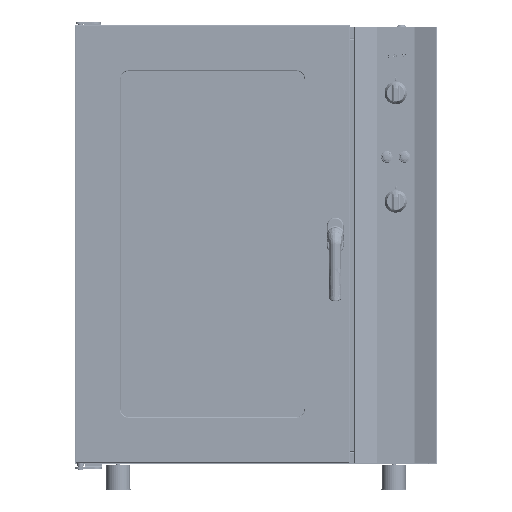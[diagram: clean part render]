
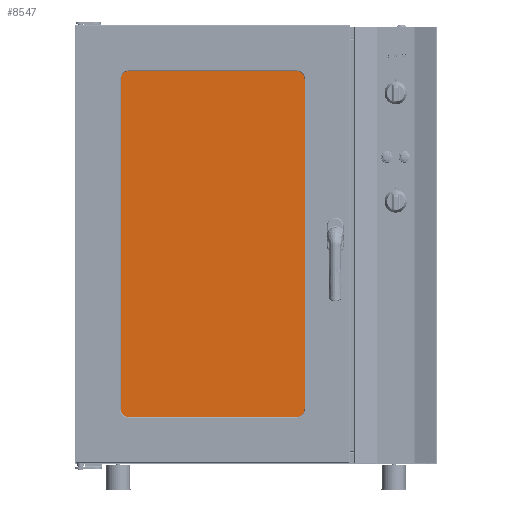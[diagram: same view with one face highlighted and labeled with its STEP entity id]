
A CAD part, front view. The second image highlights one B-rep face of the part: STEP entity #8547.
In plain terms, the highlighted planar face has unit normal (0, -1, 0).
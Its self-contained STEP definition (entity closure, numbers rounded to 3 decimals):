
#3906=FACE_OUTER_BOUND('',#17939,.T.);
#8547=ADVANCED_FACE('',(#3906),#13794,.F.);
#13794=PLANE('',#89497);
#17939=EDGE_LOOP('',(#24753,#24754,#24755,#24756,#24757,#24758,#24759,#24760));
#24753=ORIENTED_EDGE('',*,*,#57852,.T.);
#24754=ORIENTED_EDGE('',*,*,#57860,.F.);
#24755=ORIENTED_EDGE('',*,*,#57855,.T.);
#24756=ORIENTED_EDGE('',*,*,#57861,.F.);
#24757=ORIENTED_EDGE('',*,*,#57858,.F.);
#24758=ORIENTED_EDGE('',*,*,#57862,.F.);
#24759=ORIENTED_EDGE('',*,*,#57863,.F.);
#24760=ORIENTED_EDGE('',*,*,#57864,.F.);
#49881=VERTEX_POINT('',#124304);
#49882=VERTEX_POINT('',#124306);
#49883=VERTEX_POINT('',#124310);
#49884=VERTEX_POINT('',#124312);
#49885=VERTEX_POINT('',#124316);
#49886=VERTEX_POINT('',#124318);
#49887=VERTEX_POINT('',#124324);
#49888=VERTEX_POINT('',#124326);
#57852=EDGE_CURVE('',#49882,#49881,#77227,.T.);
#57855=EDGE_CURVE('',#49884,#49883,#77230,.T.);
#57858=EDGE_CURVE('',#49885,#49886,#77233,.T.);
#57860=EDGE_CURVE('',#49884,#49881,#71978,.T.);
#57861=EDGE_CURVE('',#49886,#49883,#71979,.T.);
#57862=EDGE_CURVE('',#49887,#49885,#71980,.T.);
#57863=EDGE_CURVE('',#49888,#49887,#77235,.T.);
#57864=EDGE_CURVE('',#49882,#49888,#71981,.T.);
#71978=CIRCLE('',#89493,20.);
#71979=CIRCLE('',#89494,20.);
#71980=CIRCLE('',#89495,20.);
#71981=CIRCLE('',#89496,20.);
#77227=LINE('',#124305,#83376);
#77230=LINE('',#124311,#83379);
#77233=LINE('',#124317,#83382);
#77235=LINE('',#124325,#83384);
#83376=VECTOR('',#99055,1.);
#83379=VECTOR('',#99060,1.);
#83382=VECTOR('',#99065,1.);
#83384=VECTOR('',#99075,1.);
#89493=AXIS2_PLACEMENT_3D('',#124321,#99069,#99070);
#89494=AXIS2_PLACEMENT_3D('',#124322,#99071,#99072);
#89495=AXIS2_PLACEMENT_3D('',#124323,#99073,#99074);
#89496=AXIS2_PLACEMENT_3D('',#124327,#99076,#99077);
#89497=AXIS2_PLACEMENT_3D('',#124328,#99078,#99079);
#99055=DIRECTION('',(-1.,0.,0.));
#99060=DIRECTION('',(0.,0.,-1.));
#99065=DIRECTION('',(-1.,0.,0.));
#99069=DIRECTION('',(0.,1.,0.));
#99070=DIRECTION('',(1.,0.,0.));
#99071=DIRECTION('',(0.,1.,0.));
#99072=DIRECTION('',(1.,0.,0.));
#99073=DIRECTION('',(0.,1.,0.));
#99074=DIRECTION('',(1.,0.,0.));
#99075=DIRECTION('',(0.,0.,-1.));
#99076=DIRECTION('',(0.,1.,0.));
#99077=DIRECTION('',(1.,0.,0.));
#99078=DIRECTION('',(0.,1.,0.));
#99079=DIRECTION('',(1.,0.,0.));
#124304=CARTESIAN_POINT('',(144.103,59.205,1064.3));
#124305=CARTESIAN_POINT('',(547.103,59.205,1064.3));
#124306=CARTESIAN_POINT('',(547.103,59.205,1064.3));
#124310=CARTESIAN_POINT('',(124.103,59.205,251.3));
#124311=CARTESIAN_POINT('',(124.103,59.205,1044.3));
#124312=CARTESIAN_POINT('',(124.103,59.205,1044.3));
#124316=CARTESIAN_POINT('',(547.103,59.205,231.3));
#124317=CARTESIAN_POINT('',(547.103,59.205,231.3));
#124318=CARTESIAN_POINT('',(144.103,59.205,231.3));
#124321=CARTESIAN_POINT('',(144.103,59.205,1044.3));
#124322=CARTESIAN_POINT('',(144.103,59.205,251.3));
#124323=CARTESIAN_POINT('',(547.103,59.205,251.3));
#124324=CARTESIAN_POINT('',(567.103,59.205,251.3));
#124325=CARTESIAN_POINT('',(567.103,59.205,1044.3));
#124326=CARTESIAN_POINT('',(567.103,59.205,1044.3));
#124327=CARTESIAN_POINT('',(547.103,59.205,1044.3));
#124328=CARTESIAN_POINT('',(547.103,59.205,1064.3));
